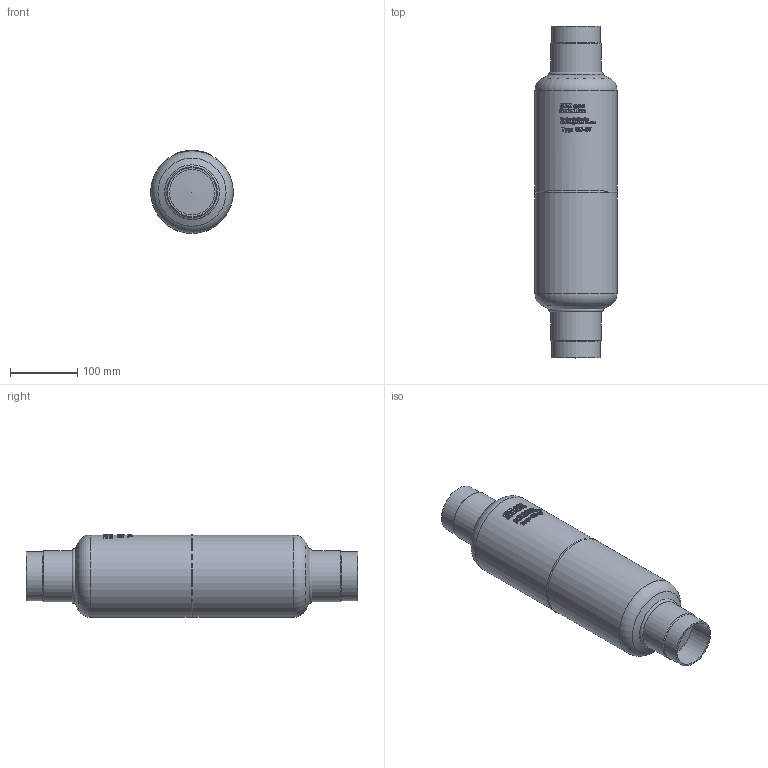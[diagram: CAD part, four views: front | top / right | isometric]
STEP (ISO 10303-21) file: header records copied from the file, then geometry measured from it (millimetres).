
FILE_DESCRIPTION(/* description */ (''),/* implementation_level */ '2;1');
FILE_NAME(/* name */ 'P:\GD\GD-67\GD-67.stp',/* time_stamp */ '2017-10-05T08:28:19+02:00',/* author */ ('neufeld'),/* organization */ (''),/* preprocessor_version */ 'ST-DEVELOPER v16.1',/* originating_system */ 'Autodesk Inventor 2016',/* authorisation */ '');
FILE_SCHEMA (('AUTOMOTIVE_DESIGN { 1 0 10303 214 3 1 1 }'));
Length unit declared in the file: millimetre
Products named in the file (2): GD-67; GD-67_1
Assembly tree (1 placements, depth 2):
  GD-67_1
    GD-67
Bounding box: 122.99 x 493.42 x 123.5 mm (x, y, z)
Volume: 4363282 mm3; surface area: 198025.2 mm2
Topology: 1 solids, 1 shells, 1010 faces, 2765 edges, 1840 vertices
Faces by surface type: plane 547, bspline 363, cylinder 89, torus 5, cone 4, sphere 2
Full cylindrical faces by diameter (mm): 67.3 x2, 72.5 x2, 75.4 x2, 122 x2
Entity records: 39430 total; most frequent: CARTESIAN_POINT 15654, ORIENTED_EDGE 5488, DIRECTION 4016, EDGE_CURVE 2744, VERTEX_POINT 1836, AXIS2_PLACEMENT_3D 1348, LINE 1320, VECTOR 1320
